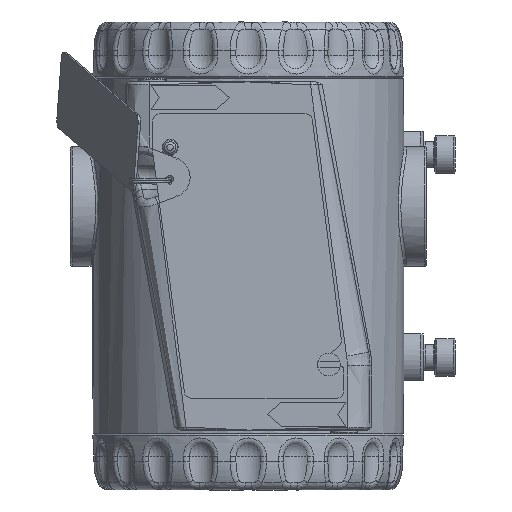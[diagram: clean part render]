
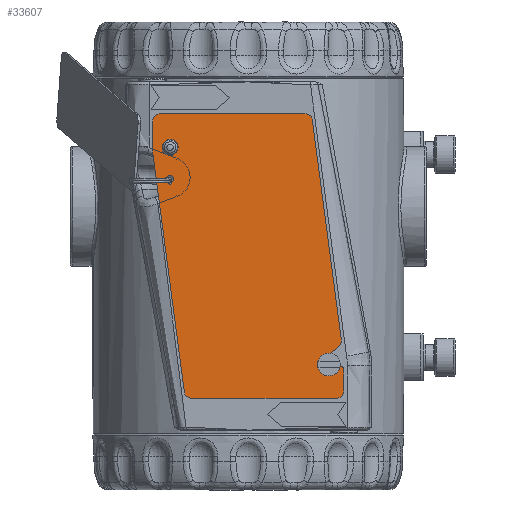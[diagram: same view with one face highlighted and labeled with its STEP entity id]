
A CAD part, left-side view. The second image highlights one B-rep face of the part: STEP entity #33607.
In plain terms, the highlighted planar face has unit normal (-1, 0, 0) as drawn and (0, 0, 1) by its records, which use the part's own axes.
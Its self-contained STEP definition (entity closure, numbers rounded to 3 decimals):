
#1078=PLANE('',#37625);
#1608=FACE_BOUND('',#9125,.T.);
#1609=FACE_BOUND('',#9126,.T.);
#2942=LINE('',#73751,#4485);
#2946=LINE('',#73763,#4489);
#2950=LINE('',#73775,#4493);
#2954=LINE('',#73787,#4497);
#2958=LINE('',#73799,#4501);
#2961=LINE('',#73805,#4504);
#2965=LINE('',#73817,#4508);
#2969=LINE('',#73828,#4512);
#4485=VECTOR('',#45868,10.);
#4489=VECTOR('',#45880,10.);
#4493=VECTOR('',#45892,10.);
#4497=VECTOR('',#45904,10.);
#4501=VECTOR('',#45916,10.);
#4504=VECTOR('',#45921,10.);
#4508=VECTOR('',#45933,10.);
#4512=VECTOR('',#45945,10.);
#6955=FACE_OUTER_BOUND('',#9124,.T.);
#9124=EDGE_LOOP('',(#28881,#28882,#28883,#28884,#28885,#28886,#28887,#28888,
#28889,#28890,#28891,#28892,#28893,#28894,#28895));
#9125=EDGE_LOOP('',(#28896));
#9126=EDGE_LOOP('',(#28897));
#11366=CIRCLE('',#37591,1.35);
#11368=CIRCLE('',#37594,1.);
#11369=CIRCLE('',#37596,2.);
#11371=CIRCLE('',#37600,2.);
#11373=CIRCLE('',#37604,1.);
#11375=CIRCLE('',#37608,2.);
#11377=CIRCLE('',#37612,2.);
#11379=CIRCLE('',#37617,2.);
#11381=CIRCLE('',#37621,2.);
#15371=VERTEX_POINT('',#73731);
#15373=VERTEX_POINT('',#73737);
#15374=VERTEX_POINT('',#73741);
#15375=VERTEX_POINT('',#73742);
#15378=VERTEX_POINT('',#73750);
#15380=VERTEX_POINT('',#73756);
#15382=VERTEX_POINT('',#73762);
#15384=VERTEX_POINT('',#73768);
#15386=VERTEX_POINT('',#73774);
#15388=VERTEX_POINT('',#73780);
#15390=VERTEX_POINT('',#73786);
#15392=VERTEX_POINT('',#73792);
#15394=VERTEX_POINT('',#73798);
#15396=VERTEX_POINT('',#73804);
#15398=VERTEX_POINT('',#73810);
#15400=VERTEX_POINT('',#73816);
#15402=VERTEX_POINT('',#73822);
#19953=EDGE_CURVE('',#15371,#15371,#11366,.T.);
#19956=EDGE_CURVE('',#15373,#15373,#11368,.T.);
#19957=EDGE_CURVE('',#15374,#15375,#11369,.T.);
#19961=EDGE_CURVE('',#15375,#15378,#2942,.T.);
#19964=EDGE_CURVE('',#15378,#15380,#11371,.T.);
#19967=EDGE_CURVE('',#15380,#15382,#2946,.T.);
#19970=EDGE_CURVE('',#15382,#15384,#11373,.T.);
#19973=EDGE_CURVE('',#15384,#15386,#2950,.T.);
#19976=EDGE_CURVE('',#15386,#15388,#11375,.T.);
#19979=EDGE_CURVE('',#15388,#15390,#2954,.T.);
#19982=EDGE_CURVE('',#15390,#15392,#11377,.T.);
#19985=EDGE_CURVE('',#15392,#15394,#2958,.T.);
#19988=EDGE_CURVE('',#15394,#15396,#2961,.T.);
#19991=EDGE_CURVE('',#15396,#15398,#11379,.T.);
#19994=EDGE_CURVE('',#15398,#15400,#2965,.T.);
#19997=EDGE_CURVE('',#15400,#15402,#11381,.T.);
#20000=EDGE_CURVE('',#15402,#15374,#2969,.T.);
#28881=ORIENTED_EDGE('',*,*,#19957,.F.);
#28882=ORIENTED_EDGE('',*,*,#20000,.F.);
#28883=ORIENTED_EDGE('',*,*,#19997,.F.);
#28884=ORIENTED_EDGE('',*,*,#19994,.F.);
#28885=ORIENTED_EDGE('',*,*,#19991,.F.);
#28886=ORIENTED_EDGE('',*,*,#19988,.F.);
#28887=ORIENTED_EDGE('',*,*,#19985,.F.);
#28888=ORIENTED_EDGE('',*,*,#19982,.F.);
#28889=ORIENTED_EDGE('',*,*,#19979,.F.);
#28890=ORIENTED_EDGE('',*,*,#19976,.F.);
#28891=ORIENTED_EDGE('',*,*,#19973,.F.);
#28892=ORIENTED_EDGE('',*,*,#19970,.F.);
#28893=ORIENTED_EDGE('',*,*,#19967,.F.);
#28894=ORIENTED_EDGE('',*,*,#19964,.F.);
#28895=ORIENTED_EDGE('',*,*,#19961,.F.);
#28896=ORIENTED_EDGE('',*,*,#19953,.T.);
#28897=ORIENTED_EDGE('',*,*,#19956,.T.);
#33607=ADVANCED_FACE('',(#6955,#1608,#1609),#1078,.T.);
#37591=AXIS2_PLACEMENT_3D('',#73733,#45849,#45850);
#37594=AXIS2_PLACEMENT_3D('',#73739,#45856,#45857);
#37596=AXIS2_PLACEMENT_3D('',#73743,#45860,#45861);
#37600=AXIS2_PLACEMENT_3D('',#73757,#45873,#45874);
#37604=AXIS2_PLACEMENT_3D('',#73769,#45885,#45886);
#37608=AXIS2_PLACEMENT_3D('',#73781,#45897,#45898);
#37612=AXIS2_PLACEMENT_3D('',#73793,#45909,#45910);
#37617=AXIS2_PLACEMENT_3D('',#73811,#45926,#45927);
#37621=AXIS2_PLACEMENT_3D('',#73823,#45938,#45939);
#37625=AXIS2_PLACEMENT_3D('',#73831,#45949,#45950);
#45849=DIRECTION('center_axis',(0.,0.,-1.));
#45850=DIRECTION('ref_axis',(-1.,0.,0.));
#45856=DIRECTION('center_axis',(0.,0.,-1.));
#45857=DIRECTION('ref_axis',(-1.,0.,0.));
#45860=DIRECTION('center_axis',(0.,0.,-1.));
#45861=DIRECTION('ref_axis',(0.766,0.643,0.));
#45868=DIRECTION('',(0.643,-0.766,0.));
#45873=DIRECTION('center_axis',(0.,0.,1.));
#45874=DIRECTION('ref_axis',(0.766,0.643,0.));
#45880=DIRECTION('',(-0.643,0.766,0.));
#45885=DIRECTION('center_axis',(0.,0.,-1.));
#45886=DIRECTION('ref_axis',(0.,1.,0.));
#45892=DIRECTION('',(1.,0.,0.));
#45897=DIRECTION('center_axis',(0.,0.,-1.));
#45898=DIRECTION('ref_axis',(1.,0.,0.));
#45904=DIRECTION('',(0.,-1.,0.));
#45909=DIRECTION('center_axis',(0.,0.,-1.));
#45910=DIRECTION('ref_axis',(0.131,-0.991,0.));
#45916=DIRECTION('',(-0.991,-0.131,0.));
#45921=DIRECTION('',(-1.,0.,0.));
#45926=DIRECTION('center_axis',(0.,0.,-1.));
#45927=DIRECTION('ref_axis',(-1.,0.,0.));
#45933=DIRECTION('',(0.,1.,0.));
#45938=DIRECTION('center_axis',(0.,0.,-1.));
#45939=DIRECTION('ref_axis',(-0.131,0.991,0.));
#45945=DIRECTION('',(0.991,0.131,0.));
#45949=DIRECTION('center_axis',(0.,0.,1.));
#45950=DIRECTION('ref_axis',(1.,0.,0.));
#73731=CARTESIAN_POINT('',(10.35,4.599,0.7));
#73733=CARTESIAN_POINT('Origin',(9.,4.599,0.7));
#73737=CARTESIAN_POINT('',(18.4,4.599,0.7));
#73739=CARTESIAN_POINT('Origin',(17.4,4.599,0.7));
#73741=CARTESIAN_POINT('',(60.389,50.327,0.7));
#73742=CARTESIAN_POINT('',(62.182,49.63,0.7));
#73743=CARTESIAN_POINT('Origin',(60.65,48.344,0.7));
#73750=CARTESIAN_POINT('',(65.468,45.714,0.7));
#73751=CARTESIAN_POINT('',(65.468,45.714,0.7));
#73756=CARTESIAN_POINT('',(68.532,48.286,0.7));
#73757=CARTESIAN_POINT('Origin',(67.,47.,0.7));
#73762=CARTESIAN_POINT('',(67.633,49.357,0.7));
#73763=CARTESIAN_POINT('',(67.633,49.357,0.7));
#73768=CARTESIAN_POINT('',(68.399,51.,0.7));
#73769=CARTESIAN_POINT('Origin',(68.399,50.,0.7));
#73774=CARTESIAN_POINT('',(74.,51.,0.7));
#73775=CARTESIAN_POINT('',(74.,51.,0.7));
#73780=CARTESIAN_POINT('',(76.,49.,0.7));
#73781=CARTESIAN_POINT('Origin',(74.,49.,0.7));
#73786=CARTESIAN_POINT('',(76.,10.377,0.7));
#73787=CARTESIAN_POINT('',(76.,10.377,0.7));
#73792=CARTESIAN_POINT('',(74.261,8.394,0.7));
#73793=CARTESIAN_POINT('Origin',(74.,10.377,0.7));
#73798=CARTESIAN_POINT('',(10.5,0.,0.7));
#73799=CARTESIAN_POINT('',(10.5,0.,0.7));
#73804=CARTESIAN_POINT('',(2.,0.,0.7));
#73805=CARTESIAN_POINT('',(2.,0.,0.7));
#73810=CARTESIAN_POINT('',(0.,2.,0.7));
#73811=CARTESIAN_POINT('Origin',(2.,2.,0.7));
#73816=CARTESIAN_POINT('',(0.,40.623,0.7));
#73817=CARTESIAN_POINT('',(0.,40.623,0.7));
#73822=CARTESIAN_POINT('',(1.739,42.606,0.7));
#73823=CARTESIAN_POINT('Origin',(2.,40.623,0.7));
#73828=CARTESIAN_POINT('',(60.389,50.327,0.7));
#73831=CARTESIAN_POINT('Origin',(39.077,26.228,0.7));
